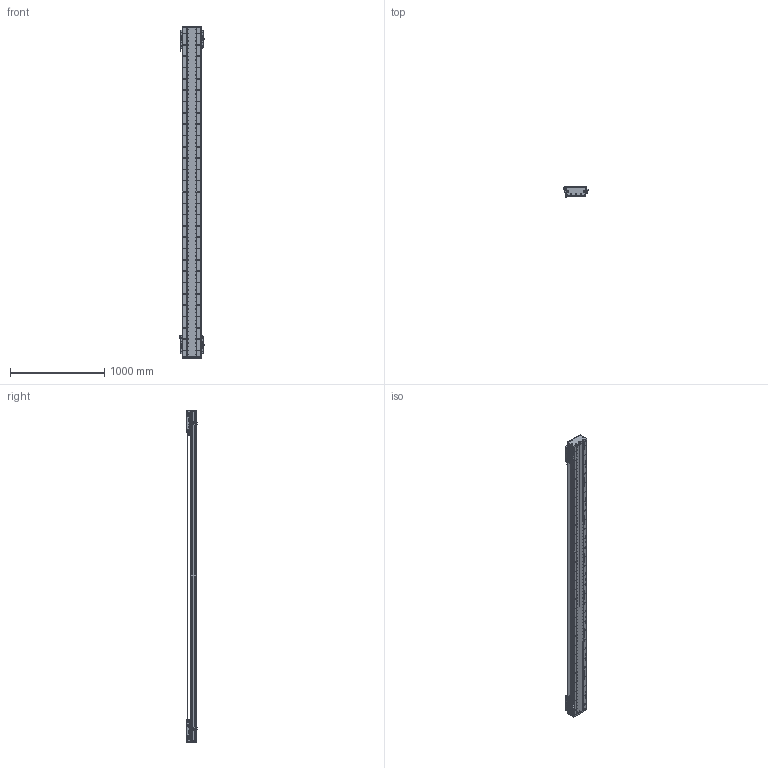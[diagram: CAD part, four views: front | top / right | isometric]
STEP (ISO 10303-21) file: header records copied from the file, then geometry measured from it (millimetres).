
FILE_DESCRIPTION (( 'STEP AP203' ), '1' );
FILE_NAME ('DA-C195-2-C2-T3020-C010-0.2 眻盄萇儂.STEP', '2025-08-14T02:15:43', ( '' ), ( '' ), 'SwSTEP 2.0', 'SolidWorks 2019', '' );
FILE_SCHEMA (( 'CONFIG_CONTROL_DESIGN' ));
Length unit declared in the file: millimetre
Products named in the file (19): DKW168-HXJ-ZJ-00 笢潔滅袉砎蝶-1; DA-C195-2-C2-T3020-C010-0.2 眻盄萇儂; DA95-HXJ-00 遣喳砎蝶-1; DA195詩湍菜輸-1; 葩璃 DA95-GT-T-00-1; DA195詩湍郪璃-1; DA165-GYP-00 光电感应片(默认)-1; DA195詩湍嶺輸-1; DA195詩湍裔啣-1; DA-C195-GD-DB-H-00 傷啣-1; IU-CU195-L 菁釱絳寢-1; DKW-KGZ-ZJ-00 中间光电开关支架-1; PM-T45ㄗ侂狟ㄘ-1; CU195-C2賑輸-俋楷-1; MS200 棠掑喜S315-T1740-1; PM-Y65嫖萇羲壽郪璃-1; DKW-GYP-ZJ-00 笢潔嫖萇覜茼え-1; LMT黍杅芛-1; IU-CU195-L-00 菁釱(L3480)
Assembly tree (37 placements, depth 3):
  DA-C195-2-C2-T3020-C010-0.2 眻盄萇儂
    DA195詩湍郪璃-1
      DA195詩湍菜輸-1  x2
      DA195詩湍裔啣-1
      DA195詩湍嶺輸-1  x2
      DA95-HXJ-00 遣喳砎蝶-1  x8
      DA-C195-GD-DB-H-00 傷啣-1  x2
    IU-CU195-L 菁釱絳寢-1
      IU-CU195-L-00 菁釱(L3480)
      葩璃 DA95-GT-T-00-1  x4
    LMT黍杅芛-1  x2
    MS200 棠掑喜S315-T1740-1
    PM-T45ㄗ侂狟ㄘ-1  x4
    DA165-GYP-00 光电感应片(默认)-1  x2
    PM-Y65嫖萇羲壽郪璃-1
    DKW168-HXJ-ZJ-00 笢潔滅袉砎蝶-1
    DKW-GYP-ZJ-00 笢潔嫖萇覜茼え-1
    DKW-KGZ-ZJ-00 中间光电开关支架-1
    CU195-C2賑輸-俋楷-1  x2
Bounding box: 258.2 x 115.45 x 3520 mm (x, y, z)
Volume: 20792203.8 mm3; surface area: 6117862.6 mm2
Topology: 114 solids, 242 shells, 7375 faces, 19991 edges, 12497 vertices
Faces by surface type: cylinder 3652, plane 2639, cone 916, torus 88, sphere 72, bspline 8
Entity records: 169965 total; most frequent: CARTESIAN_POINT 47927, ORIENTED_EDGE 25814, DIRECTION 24130, EDGE_CURVE 12907, AXIS2_PLACEMENT_3D 8925, VERTEX_POINT 8384, LINE 6280, VECTOR 6280
